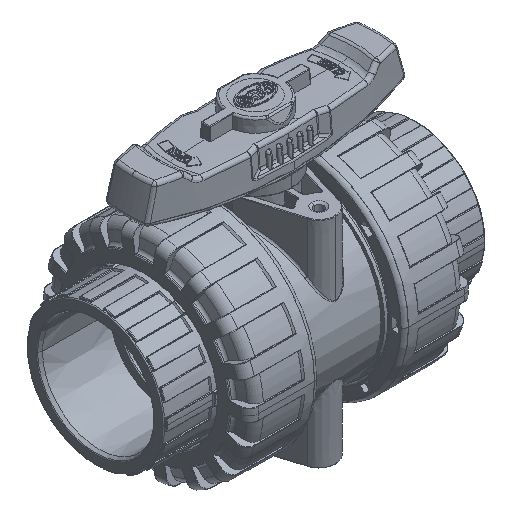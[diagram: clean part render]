
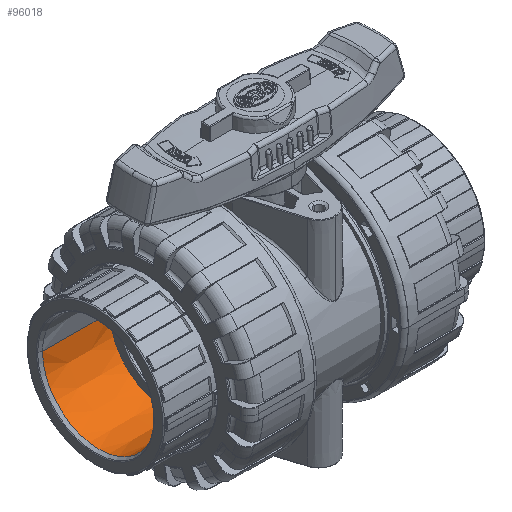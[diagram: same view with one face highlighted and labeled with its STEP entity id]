
A CAD part, isometric view. The second image highlights one B-rep face of the part: STEP entity #96018.
In plain terms, the highlighted conical face has half-angle 0.414 degrees and reference radius 1.196 mm.
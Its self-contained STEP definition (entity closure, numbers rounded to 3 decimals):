
#75734 = PLANE('',#75735);
#75735 = AXIS2_PLACEMENT_3D('',#75736,#75737,#75738);
#75736 = CARTESIAN_POINT('',(-84.07,-31.672,
    -66.086));
#75737 = DIRECTION('',(-1.,0.,0.));
#75738 = DIRECTION('',(0.,-1.,0.));
#75834 = VERTEX_POINT('',#75835);
#75835 = CARTESIAN_POINT('',(-85.492,-32.868,
    -67.071));
#75842 = CONICAL_SURFACE('',#75843,1.236,0.469);
#75843 = AXIS2_PLACEMENT_3D('',#75844,#75845,#75846);
#75844 = CARTESIAN_POINT('',(-85.571,-31.672,
    -67.071));
#75845 = DIRECTION('',(-1.,0.,0.));
#75846 = DIRECTION('',(0.,-1.,0.));
#75884 = VERTEX_POINT('',#75885);
#75885 = CARTESIAN_POINT('',(-85.492,-30.476,
    -67.071));
#75906 = EDGE_CURVE('',#75884,#75834,#75907,.T.);
#75907 = SURFACE_CURVE('',#75908,(#75913,#75920),.PCURVE_S1.);
#75908 = CIRCLE('',#75909,1.196);
#75909 = AXIS2_PLACEMENT_3D('',#75910,#75911,#75912);
#75910 = CARTESIAN_POINT('',(-85.492,-31.672,
    -67.071));
#75911 = DIRECTION('',(-1.,0.,0.));
#75912 = DIRECTION('',(0.,1.,0.));
#75913 = PCURVE('',#75842,#75914);
#75914 = DEFINITIONAL_REPRESENTATION('',(#75915),#75919);
#75915 = LINE('',#75916,#75917);
#75916 = CARTESIAN_POINT('',(3.142,-0.079));
#75917 = VECTOR('',#75918,1.);
#75918 = DIRECTION('',(1.,0.));
#75919 = ( GEOMETRIC_REPRESENTATION_CONTEXT(2) 
PARAMETRIC_REPRESENTATION_CONTEXT() REPRESENTATION_CONTEXT('2D SPACE',''
  ) );
#75920 = PCURVE('',#75921,#75926);
#75921 = CONICAL_SURFACE('',#75922,1.196,0.007);
#75922 = AXIS2_PLACEMENT_3D('',#75923,#75924,#75925);
#75923 = CARTESIAN_POINT('',(-85.571,-31.672,
    -67.071));
#75924 = DIRECTION('',(-1.,0.,0.));
#75925 = DIRECTION('',(0.,1.,0.));
#75926 = DEFINITIONAL_REPRESENTATION('',(#75927),#75931);
#75927 = LINE('',#75928,#75929);
#75928 = CARTESIAN_POINT('',(0.,-0.079));
#75929 = VECTOR('',#75930,1.);
#75930 = DIRECTION('',(1.,0.));
#75931 = ( GEOMETRIC_REPRESENTATION_CONTEXT(2) 
PARAMETRIC_REPRESENTATION_CONTEXT() REPRESENTATION_CONTEXT('2D SPACE',''
  ) );
#76053 = EDGE_CURVE('',#76054,#75884,#76056,.T.);
#76054 = VERTEX_POINT('',#76055);
#76055 = CARTESIAN_POINT('',(-84.07,-30.486,
    -67.071));
#76056 = SURFACE_CURVE('',#76057,(#76061,#76073),.PCURVE_S1.);
#76057 = LINE('',#76058,#76059);
#76058 = CARTESIAN_POINT('',(-85.571,-30.476,
    -67.071));
#76059 = VECTOR('',#76060,1.);
#76060 = DIRECTION('',(-1.,0.007,0.));
#76061 = PCURVE('',#76062,#76067);
#76062 = CONICAL_SURFACE('',#76063,1.196,0.007);
#76063 = AXIS2_PLACEMENT_3D('',#76064,#76065,#76066);
#76064 = CARTESIAN_POINT('',(-85.571,-31.672,
    -67.071));
#76065 = DIRECTION('',(-1.,0.,0.));
#76066 = DIRECTION('',(0.,1.,0.));
#76067 = DEFINITIONAL_REPRESENTATION('',(#76068),#76072);
#76068 = LINE('',#76069,#76070);
#76069 = CARTESIAN_POINT('',(6.283,0.));
#76070 = VECTOR('',#76071,1.);
#76071 = DIRECTION('',(0.,1.));
#76072 = ( GEOMETRIC_REPRESENTATION_CONTEXT(2) 
PARAMETRIC_REPRESENTATION_CONTEXT() REPRESENTATION_CONTEXT('2D SPACE',''
  ) );
#76073 = PCURVE('',#75921,#76074);
#76074 = DEFINITIONAL_REPRESENTATION('',(#76075),#76079);
#76075 = LINE('',#76076,#76077);
#76076 = CARTESIAN_POINT('',(0.,0.));
#76077 = VECTOR('',#76078,1.);
#76078 = DIRECTION('',(0.,1.));
#76079 = ( GEOMETRIC_REPRESENTATION_CONTEXT(2) 
PARAMETRIC_REPRESENTATION_CONTEXT() REPRESENTATION_CONTEXT('2D SPACE',''
  ) );
#76103 = EDGE_CURVE('',#76104,#75834,#76106,.T.);
#76104 = VERTEX_POINT('',#76105);
#76105 = CARTESIAN_POINT('',(-84.07,-32.858,
    -67.071));
#76106 = SURFACE_CURVE('',#76107,(#76111,#76118),.PCURVE_S1.);
#76107 = LINE('',#76108,#76109);
#76108 = CARTESIAN_POINT('',(-85.571,-32.868,
    -67.071));
#76109 = VECTOR('',#76110,1.);
#76110 = DIRECTION('',(-1.,-0.007,0.));
#76111 = PCURVE('',#76062,#76112);
#76112 = DEFINITIONAL_REPRESENTATION('',(#76113),#76117);
#76113 = LINE('',#76114,#76115);
#76114 = CARTESIAN_POINT('',(3.142,0.));
#76115 = VECTOR('',#76116,1.);
#76116 = DIRECTION('',(0.,1.));
#76117 = ( GEOMETRIC_REPRESENTATION_CONTEXT(2) 
PARAMETRIC_REPRESENTATION_CONTEXT() REPRESENTATION_CONTEXT('2D SPACE',''
  ) );
#76118 = PCURVE('',#75921,#76119);
#76119 = DEFINITIONAL_REPRESENTATION('',(#76120),#76124);
#76120 = LINE('',#76121,#76122);
#76121 = CARTESIAN_POINT('',(3.142,0.));
#76122 = VECTOR('',#76123,1.);
#76123 = DIRECTION('',(0.,1.));
#76124 = ( GEOMETRIC_REPRESENTATION_CONTEXT(2) 
PARAMETRIC_REPRESENTATION_CONTEXT() REPRESENTATION_CONTEXT('2D SPACE',''
  ) );
#94941 = EDGE_CURVE('',#76104,#76054,#94942,.T.);
#94942 = SURFACE_CURVE('',#94943,(#94948,#94959),.PCURVE_S1.);
#94943 = CIRCLE('',#94944,1.186);
#94944 = AXIS2_PLACEMENT_3D('',#94945,#94946,#94947);
#94945 = CARTESIAN_POINT('',(-84.07,-31.672,
    -67.071));
#94946 = DIRECTION('',(1.,0.,0.));
#94947 = DIRECTION('',(0.,-1.,0.));
#94948 = PCURVE('',#75734,#94949);
#94949 = DEFINITIONAL_REPRESENTATION('',(#94950),#94958);
#94950 = ( BOUNDED_CURVE() B_SPLINE_CURVE(2,(#94951,#94952,#94953,#94954
    ,#94955,#94956,#94957),.UNSPECIFIED.,.T.,.F.) 
B_SPLINE_CURVE_WITH_KNOTS((1,2,2,2,2,1),(-2.094,0.,
    2.094,4.189,6.283,8.378),
.UNSPECIFIED.) CURVE() GEOMETRIC_REPRESENTATION_ITEM() 
RATIONAL_B_SPLINE_CURVE((1.,0.5,1.,0.5,1.,0.5,1.)) REPRESENTATION_ITEM(
  '') );
#94951 = CARTESIAN_POINT('',(1.186,-0.985));
#94952 = CARTESIAN_POINT('',(1.186,-3.038));
#94953 = CARTESIAN_POINT('',(-0.593,-2.012));
#94954 = CARTESIAN_POINT('',(-2.371,-0.985));
#94955 = CARTESIAN_POINT('',(-0.593,0.042));
#94956 = CARTESIAN_POINT('',(1.186,1.068));
#94957 = CARTESIAN_POINT('',(1.186,-0.985));
#94958 = ( GEOMETRIC_REPRESENTATION_CONTEXT(2) 
PARAMETRIC_REPRESENTATION_CONTEXT() REPRESENTATION_CONTEXT('2D SPACE',''
  ) );
#94959 = PCURVE('',#75921,#94960);
#94960 = DEFINITIONAL_REPRESENTATION('',(#94961),#94965);
#94961 = LINE('',#94962,#94963);
#94962 = CARTESIAN_POINT('',(3.142,-1.501));
#94963 = VECTOR('',#94964,1.);
#94964 = DIRECTION('',(-1.,0.));
#94965 = ( GEOMETRIC_REPRESENTATION_CONTEXT(2) 
PARAMETRIC_REPRESENTATION_CONTEXT() REPRESENTATION_CONTEXT('2D SPACE',''
  ) );
#96018 = ADVANCED_FACE('',(#96019),#75921,.F.);
#96019 = FACE_BOUND('',#96020,.T.);
#96020 = EDGE_LOOP('',(#96021,#96022,#96023,#96024));
#96021 = ORIENTED_EDGE('',*,*,#76103,.F.);
#96022 = ORIENTED_EDGE('',*,*,#94941,.T.);
#96023 = ORIENTED_EDGE('',*,*,#76053,.T.);
#96024 = ORIENTED_EDGE('',*,*,#75906,.T.);
